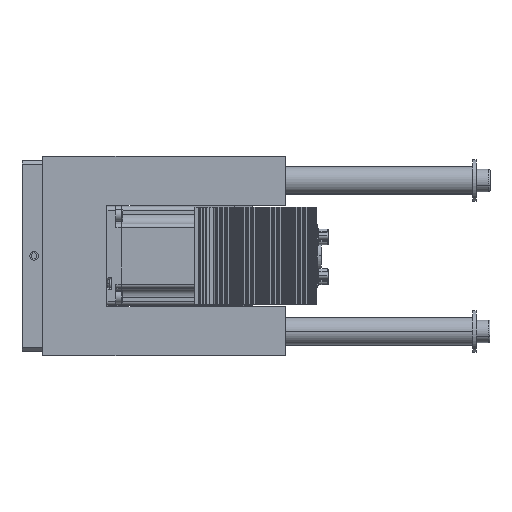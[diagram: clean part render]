
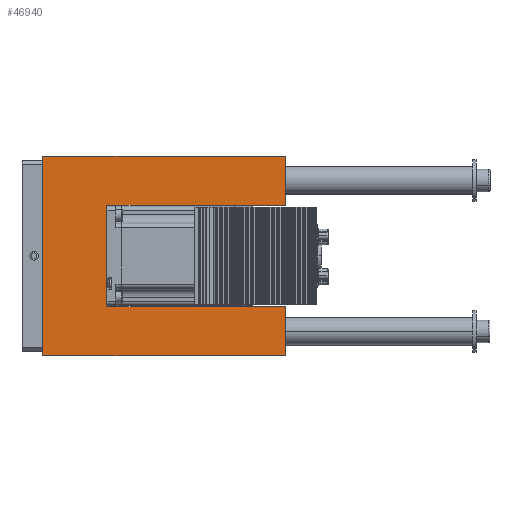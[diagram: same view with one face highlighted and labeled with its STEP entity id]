
A CAD part, top view. The second image highlights one B-rep face of the part: STEP entity #46940.
In plain terms, the highlighted planar face has unit normal (0, 0, 1).
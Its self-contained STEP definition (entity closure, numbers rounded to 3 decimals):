
#1854 = CARTESIAN_POINT ( 'NONE',  ( -70., 57.5, 29. ) ) ;
#2113 = LINE ( 'NONE', #66395, #12085 ) ;
#3133 = EDGE_LOOP ( 'NONE', ( #26460, #22493, #14838, #62640, #31299, #45321, #64724, #49606 ) ) ;
#4504 = DIRECTION ( 'NONE',  ( 0., 0., 1. ) ) ;
#5863 = LINE ( 'NONE', #31900, #28041 ) ;
#6172 = EDGE_CURVE ( 'NONE', #23089, #27965, #5863, .T. ) ;
#8497 = DIRECTION ( 'NONE',  ( 0., -1., 0. ) ) ;
#11448 = DIRECTION ( 'NONE',  ( -1., 0., 0. ) ) ;
#12085 = VECTOR ( 'NONE', #67217, 1000. ) ;
#14838 = ORIENTED_EDGE ( 'NONE', *, *, #6172, .F. ) ;
#15238 = VECTOR ( 'NONE', #48045, 1000. ) ;
#15468 = EDGE_CURVE ( 'NONE', #46340, #18879, #2113, .T. ) ;
#18879 = VERTEX_POINT ( 'NONE', #71314 ) ;
#20222 = DIRECTION ( 'NONE',  ( -1., 0., 0. ) ) ;
#20402 = CARTESIAN_POINT ( 'NONE',  ( -70., 57.5, 29. ) ) ;
#20627 = LINE ( 'NONE', #1854, #25892 ) ;
#21333 = VECTOR ( 'NONE', #78399, 1000. ) ;
#22431 = CARTESIAN_POINT ( 'NONE',  ( -70., -57.5, 29. ) ) ;
#22493 = ORIENTED_EDGE ( 'NONE', *, *, #58288, .F. ) ;
#22539 = CARTESIAN_POINT ( 'NONE',  ( 70., 29.25, 29. ) ) ;
#23089 = VERTEX_POINT ( 'NONE', #22539 ) ;
#23933 = CARTESIAN_POINT ( 'NONE',  ( 70., -29.25, 29. ) ) ;
#25892 = VECTOR ( 'NONE', #20222, 1000. ) ;
#26460 = ORIENTED_EDGE ( 'NONE', *, *, #53621, .F. ) ;
#27965 = VERTEX_POINT ( 'NONE', #52121 ) ;
#28041 = VECTOR ( 'NONE', #11448, 1000. ) ;
#31299 = ORIENTED_EDGE ( 'NONE', *, *, #71959, .T. ) ;
#31900 = CARTESIAN_POINT ( 'NONE',  ( 70., 29.25, 29. ) ) ;
#33230 = DIRECTION ( 'NONE',  ( 0., -1., 0. ) ) ;
#40200 = LINE ( 'NONE', #47052, #69594 ) ;
#45291 = CARTESIAN_POINT ( 'NONE',  ( 70., 57.5, 29. ) ) ;
#45321 = ORIENTED_EDGE ( 'NONE', *, *, #55627, .T. ) ;
#46340 = VERTEX_POINT ( 'NONE', #22431 ) ;
#46847 = VERTEX_POINT ( 'NONE', #45291 ) ;
#46940 = ADVANCED_FACE ( 'NONE', ( #63640 ), #77700, .T. ) ;
#46967 = VERTEX_POINT ( 'NONE', #59282 ) ;
#47052 = CARTESIAN_POINT ( 'NONE',  ( -33., -29.25, 29. ) ) ;
#48045 = DIRECTION ( 'NONE',  ( 1., 0., 0. ) ) ;
#49606 = ORIENTED_EDGE ( 'NONE', *, *, #64973, .T. ) ;
#51630 = CARTESIAN_POINT ( 'NONE',  ( 70., -29.25, 29. ) ) ;
#52121 = CARTESIAN_POINT ( 'NONE',  ( -33., 29.25, 29. ) ) ;
#52377 = VECTOR ( 'NONE', #83500, 1000. ) ;
#52934 = VERTEX_POINT ( 'NONE', #23933 ) ;
#53621 = EDGE_CURVE ( 'NONE', #46967, #52934, #58937, .T. ) ;
#55627 = EDGE_CURVE ( 'NONE', #61575, #46340, #65487, .T. ) ;
#58045 = CARTESIAN_POINT ( 'NONE',  ( 0., 0., 29. ) ) ;
#58288 = EDGE_CURVE ( 'NONE', #27965, #46967, #40200, .T. ) ;
#58937 = LINE ( 'NONE', #51630, #15238 ) ;
#59282 = CARTESIAN_POINT ( 'NONE',  ( -33., -29.25, 29. ) ) ;
#61575 = VERTEX_POINT ( 'NONE', #75467 ) ;
#62640 = ORIENTED_EDGE ( 'NONE', *, *, #62687, .T. ) ;
#62687 = EDGE_CURVE ( 'NONE', #23089, #46847, #77942, .T. ) ;
#63640 = FACE_OUTER_BOUND ( 'NONE', #3133, .T. ) ;
#64724 = ORIENTED_EDGE ( 'NONE', *, *, #15468, .T. ) ;
#64973 = EDGE_CURVE ( 'NONE', #18879, #52934, #78822, .T. ) ;
#65487 = LINE ( 'NONE', #20402, #69011 ) ;
#66395 = CARTESIAN_POINT ( 'NONE',  ( -70., -57.5, 29. ) ) ;
#67217 = DIRECTION ( 'NONE',  ( 1., 0., 0. ) ) ;
#69011 = VECTOR ( 'NONE', #33230, 1000. ) ;
#69594 = VECTOR ( 'NONE', #8497, 1000. ) ;
#71314 = CARTESIAN_POINT ( 'NONE',  ( 70., -57.5, 29. ) ) ;
#71959 = EDGE_CURVE ( 'NONE', #46847, #61575, #20627, .T. ) ;
#72938 = AXIS2_PLACEMENT_3D ( 'NONE', #58045, #4504, #83258 ) ;
#75467 = CARTESIAN_POINT ( 'NONE',  ( -70., 57.5, 29. ) ) ;
#77700 = PLANE ( 'NONE',  #72938 ) ;
#77942 = LINE ( 'NONE', #84345, #52377 ) ;
#78399 = DIRECTION ( 'NONE',  ( 0., 1., 0. ) ) ;
#78822 = LINE ( 'NONE', #84373, #21333 ) ;
#83258 = DIRECTION ( 'NONE',  ( 1., 0., 0. ) ) ;
#83500 = DIRECTION ( 'NONE',  ( 0., 1., 0. ) ) ;
#84345 = CARTESIAN_POINT ( 'NONE',  ( 70., 57.5, 29. ) ) ;
#84373 = CARTESIAN_POINT ( 'NONE',  ( 70., 57.5, 29. ) ) ;
